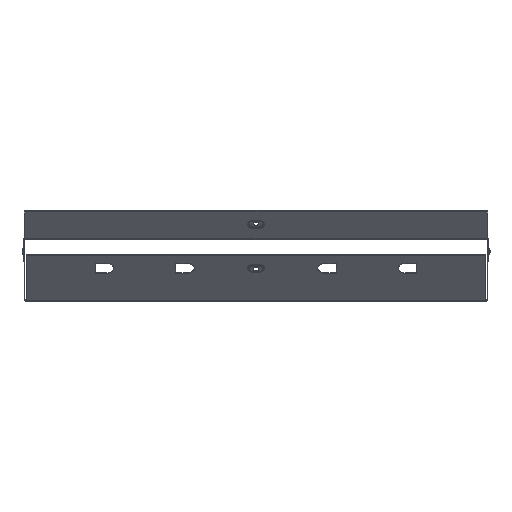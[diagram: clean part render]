
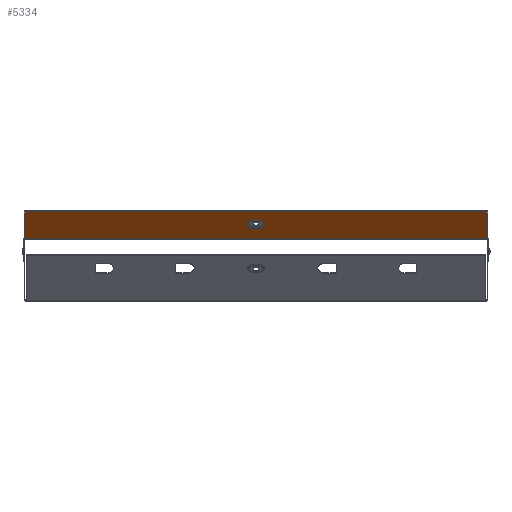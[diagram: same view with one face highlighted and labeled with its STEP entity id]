
A CAD part, top view. The second image highlights one B-rep face of the part: STEP entity #5334.
In plain terms, the highlighted planar face has unit normal (0, -0.707, 0.707).
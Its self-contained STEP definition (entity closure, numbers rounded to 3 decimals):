
#386 = CARTESIAN_POINT ( 'NONE',  ( -3.5, 17.819, 81.45 ) ) ;
#586 = EDGE_CURVE ( 'NONE', #1217, #2671, #11363, .T. ) ;
#605 = PLANE ( 'NONE',  #1409 ) ;
#814 = CARTESIAN_POINT ( 'NONE',  ( 299., -0.273, 63.359 ) ) ;
#1217 = VERTEX_POINT ( 'NONE', #1632 ) ;
#1409 = AXIS2_PLACEMENT_3D ( 'NONE', #13394, #9113, #5456 ) ;
#1605 = DIRECTION ( 'NONE',  ( 0., -0.707, 0.707 ) ) ;
#1632 = CARTESIAN_POINT ( 'NONE',  ( -3.5, 23.192, 86.823 ) ) ;
#1701 = DIRECTION ( 'NONE',  ( 0., -0.707, -0.707 ) ) ;
#1813 = CARTESIAN_POINT ( 'NONE',  ( 3.5, 17.819, 81.45 ) ) ;
#1910 = EDGE_LOOP ( 'NONE', ( #10290, #2501, #12076, #10291 ) ) ;
#1946 = EDGE_LOOP ( 'NONE', ( #10445, #13983, #14830, #6199 ) ) ;
#2117 = VERTEX_POINT ( 'NONE', #3535 ) ;
#2501 = ORIENTED_EDGE ( 'NONE', *, *, #10251, .F. ) ;
#2671 = VERTEX_POINT ( 'NONE', #14435 ) ;
#2873 = CARTESIAN_POINT ( 'NONE',  ( 299., -0.273, 63.359 ) ) ;
#2982 = DIRECTION ( 'NONE',  ( 0., -0.707, -0.707 ) ) ;
#3446 = DIRECTION ( 'NONE',  ( 1., 0., 0. ) ) ;
#3535 = CARTESIAN_POINT ( 'NONE',  ( 299., 34.79, 98.421 ) ) ;
#3733 = CARTESIAN_POINT ( 'NONE',  ( 299., -0.566, 63.066 ) ) ;
#4062 = EDGE_CURVE ( 'NONE', #2671, #13228, #4910, .T. ) ;
#4099 = CARTESIAN_POINT ( 'NONE',  ( -299., 34.79, 98.421 ) ) ;
#4346 = VERTEX_POINT ( 'NONE', #4099 ) ;
#4815 = LINE ( 'NONE', #5742, #5541 ) ;
#4910 = LINE ( 'NONE', #11588, #5085 ) ;
#5085 = VECTOR ( 'NONE', #3446, 1000. ) ;
#5146 = FACE_BOUND ( 'NONE', #1946, .T. ) ;
#5187 = EDGE_CURVE ( 'NONE', #2117, #8337, #11995, .T. ) ;
#5334 = ADVANCED_FACE ( 'NONE', ( #5146, #13655 ), #605, .F. ) ;
#5347 = CARTESIAN_POINT ( 'NONE',  ( -299., -0.566, 63.066 ) ) ;
#5456 = DIRECTION ( 'NONE',  ( 0., 0.707, 0.707 ) ) ;
#5541 = VECTOR ( 'NONE', #14028, 1000. ) ;
#5742 = CARTESIAN_POINT ( 'NONE',  ( -3.5, 23.192, 86.823 ) ) ;
#5856 = VECTOR ( 'NONE', #11109, 1000. ) ;
#6199 = ORIENTED_EDGE ( 'NONE', *, *, #13464, .F. ) ;
#6451 = LINE ( 'NONE', #814, #9255 ) ;
#7139 = EDGE_CURVE ( 'NONE', #2117, #4346, #7150, .T. ) ;
#7150 = LINE ( 'NONE', #12493, #5856 ) ;
#7386 = DIRECTION ( 'NONE',  ( 0., -0.707, -0.707 ) ) ;
#7560 = AXIS2_PLACEMENT_3D ( 'NONE', #386, #1605, #1701 ) ;
#7717 = LINE ( 'NONE', #5347, #10161 ) ;
#8337 = VERTEX_POINT ( 'NONE', #2873 ) ;
#8906 = DIRECTION ( 'NONE',  ( 0., -0.707, -0.707 ) ) ;
#9113 = DIRECTION ( 'NONE',  ( 0., 0.707, -0.707 ) ) ;
#9255 = VECTOR ( 'NONE', #12409, 1000. ) ;
#9666 = VERTEX_POINT ( 'NONE', #14439 ) ;
#10085 = DIRECTION ( 'NONE',  ( 0., -0.707, 0.707 ) ) ;
#10161 = VECTOR ( 'NONE', #8906, 1000. ) ;
#10251 = EDGE_CURVE ( 'NONE', #8337, #15006, #6451, .T. ) ;
#10290 = ORIENTED_EDGE ( 'NONE', *, *, #12166, .T. ) ;
#10291 = ORIENTED_EDGE ( 'NONE', *, *, #7139, .T. ) ;
#10445 = ORIENTED_EDGE ( 'NONE', *, *, #13779, .F. ) ;
#11109 = DIRECTION ( 'NONE',  ( -1., 0., 0. ) ) ;
#11363 = CIRCLE ( 'NONE', #7560, 7.598 ) ;
#11588 = CARTESIAN_POINT ( 'NONE',  ( -3.5, 12.446, 76.078 ) ) ;
#11995 = LINE ( 'NONE', #3733, #12366 ) ;
#12076 = ORIENTED_EDGE ( 'NONE', *, *, #5187, .F. ) ;
#12166 = EDGE_CURVE ( 'NONE', #4346, #15006, #7717, .T. ) ;
#12211 = CIRCLE ( 'NONE', #12658, 7.598 ) ;
#12366 = VECTOR ( 'NONE', #7386, 1000. ) ;
#12409 = DIRECTION ( 'NONE',  ( -1., 0., 0. ) ) ;
#12493 = CARTESIAN_POINT ( 'NONE',  ( 299., 34.79, 98.421 ) ) ;
#12658 = AXIS2_PLACEMENT_3D ( 'NONE', #1813, #10085, #2982 ) ;
#12670 = CARTESIAN_POINT ( 'NONE',  ( 3.5, 12.446, 76.078 ) ) ;
#13028 = CARTESIAN_POINT ( 'NONE',  ( -299., -0.273, 63.359 ) ) ;
#13228 = VERTEX_POINT ( 'NONE', #12670 ) ;
#13394 = CARTESIAN_POINT ( 'NONE',  ( 299., -0.566, 63.066 ) ) ;
#13464 = EDGE_CURVE ( 'NONE', #9666, #1217, #4815, .T. ) ;
#13655 = FACE_OUTER_BOUND ( 'NONE', #1910, .T. ) ;
#13779 = EDGE_CURVE ( 'NONE', #13228, #9666, #12211, .T. ) ;
#13983 = ORIENTED_EDGE ( 'NONE', *, *, #4062, .F. ) ;
#14028 = DIRECTION ( 'NONE',  ( -1., 0., 0. ) ) ;
#14435 = CARTESIAN_POINT ( 'NONE',  ( -3.5, 12.446, 76.078 ) ) ;
#14439 = CARTESIAN_POINT ( 'NONE',  ( 3.5, 23.192, 86.823 ) ) ;
#14830 = ORIENTED_EDGE ( 'NONE', *, *, #586, .F. ) ;
#15006 = VERTEX_POINT ( 'NONE', #13028 ) ;
